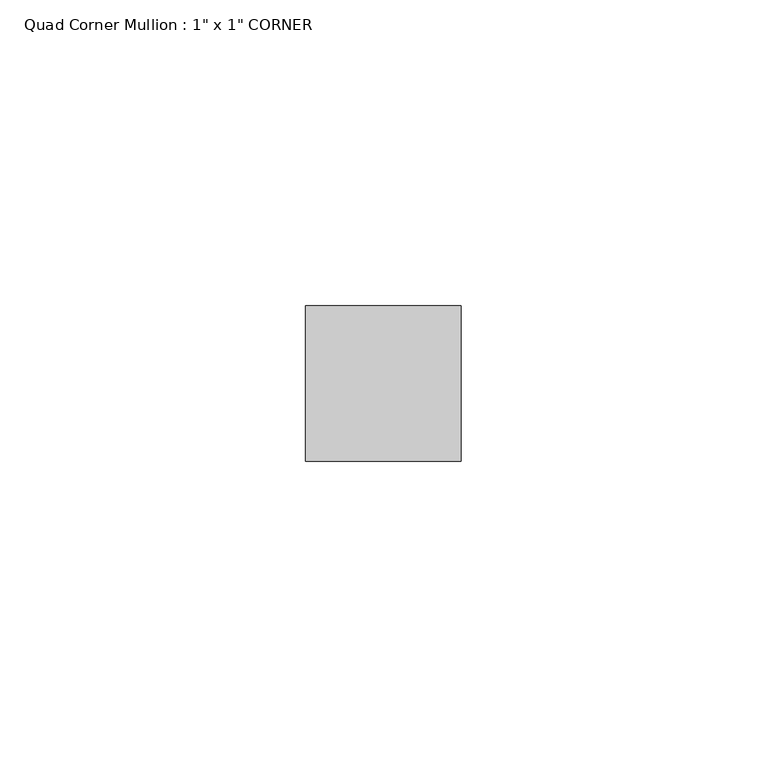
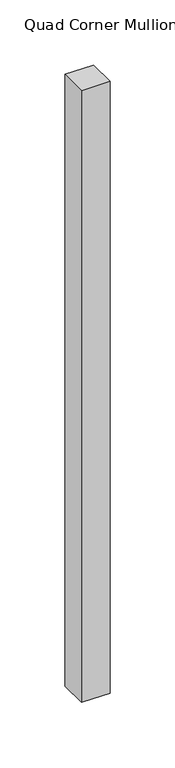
"""IFC4 building model written with IfcOpenShell, lengths in millimetres: member geometry."""

from ifc_helpers import new_model, si_unit, frame, origin, place, context, project, spatial, polyline, outline, extrude, source, transform, mapped, element, save


def member_88d38684(model_context):
    return source(origin(), model_context, "Body", "SweptSolid", [
        extrude(outline(polyline([(0.0, 25.4), (0.0, 0.0), (-25.4, 0.0), (-25.4, 25.4), (0.0, 25.4)])), frame((0.0, 0.0, -574.675), z_axis=(0.0, 0.0, 1.0), x_axis=(1.0, 0.0, 0.0)), (0.0, 0.0, 1.0), 574.675),
    ])


if __name__ == "__main__":
    model = new_model("IFC4")
    model_context = context("Model", 3, world=origin())
    ifc_project = project(units=[si_unit("LENGTHUNIT", "METRE", prefix="MILLI")], contexts=[model_context])
    site = spatial("IfcSite", under=ifc_project)
    building = spatial("IfcBuilding", under=site)
    placement = place(None, origin())
    member_shape = member_88d38684(model_context)
    element("IfcMember", 1, ObjectType="Quad Corner Mullion : 1\" x 1\" CORNER", at=placement, inside=building, context=model_context, shape_type="MappedRepresentation", body=[
        mapped(member_shape, transform((0.0, 0.0, 0.0), x_axis=(1.0, 0.0, 0.0), y_axis=(0.0, 1.0, 0.0), z_axis=(0.0, 0.0, 1.0))),
    ])
    save(model, "model.ifc")
